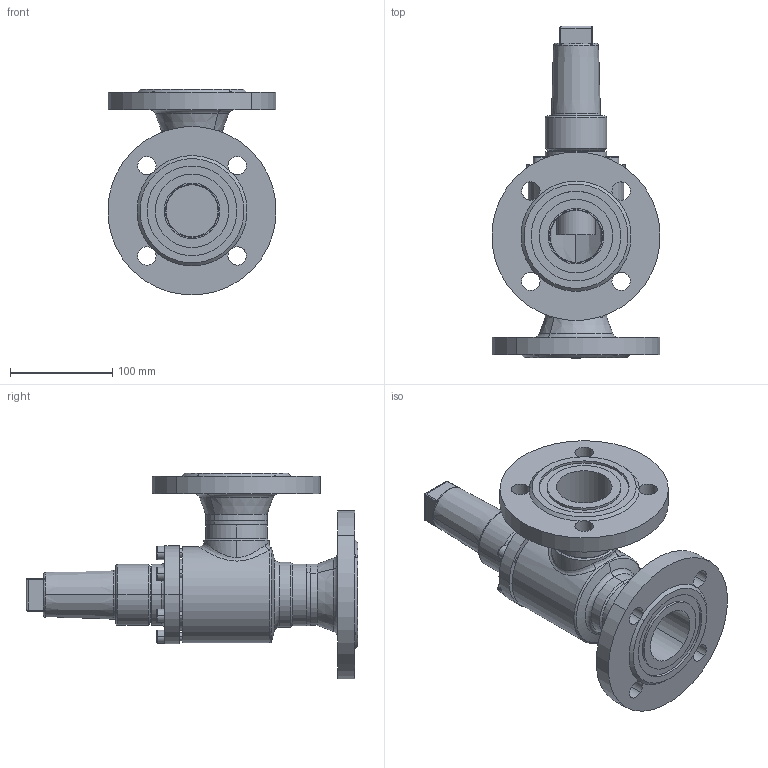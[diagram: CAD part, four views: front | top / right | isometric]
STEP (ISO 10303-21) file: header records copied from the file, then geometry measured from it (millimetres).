
FILE_DESCRIPTION (( 'STEP AP214' ), '1' );
FILE_NAME ('HRAB12420D15-DN050_DIN-FL-N_PS40.STEP', '2006-04-27T12:08:38', ( 'Herr Grams' ), ( 'AWP GmbH' ), 'SwSTEP 2.0', 'SolidWorks 2002296', '' );
FILE_SCHEMA (( 'AUTOMOTIVE_DESIGN' ));
Length unit declared in the file: millimetre
Products named in the file (10): Gehäuse-kpl16420-DN050_DIN_PS40_Standard; Gehäuse16400-DN050_Standard; Flansch-DIN2635-Nut_PS40_DIN-Flansch-DN050_PS40-Nut; bead16420-Geh-050-2_Standard; bead16420-Geh-050-1_Standard; AVB16300E15_Deck+Schr-DN40-50_Standard; Deckel16300E15-DN40-50_Standard; Zylinderschraube-DIN912_M 8x 25; HRAB12420D15-DN050_DIN-FL-N_PS40; Kappe16402_DN040-65_Standard
Assembly tree (15 placements, depth 3):
  HRAB12420D15-DN050_DIN-FL-N_PS40
    AVB16300E15_Deck+Schr-DN40-50_Standard
      Deckel16300E15-DN40-50_Standard
      Zylinderschraube-DIN912_M 8x 25  x6
    Gehäuse-kpl16420-DN050_DIN_PS40_Standard
      Flansch-DIN2635-Nut_PS40_DIN-Flansch-DN050_PS40-Nut  x2
      bead16420-Geh-050-1_Standard
      Gehäuse16400-DN050_Standard
      bead16420-Geh-050-2_Standard
    Kappe16402_DN040-65_Standard
Bounding box: 164.37 x 325 x 201.19 mm (x, y, z)
Volume: 1422632.8 mm3; surface area: 282904.2 mm2
Topology: 13 solids, 13 shells, 338 faces, 767 edges, 482 vertices
Faces by surface type: cylinder 132, plane 107, cone 58, torus 31, bspline 10
Entity records: 18763 total; most frequent: CARTESIAN_POINT 13068, DIRECTION 1119, ORIENTED_EDGE 990, EDGE_CURVE 495, AXIS2_PLACEMENT_3D 476, VERTEX_POINT 310, EDGE_LOOP 261, CIRCLE 250
